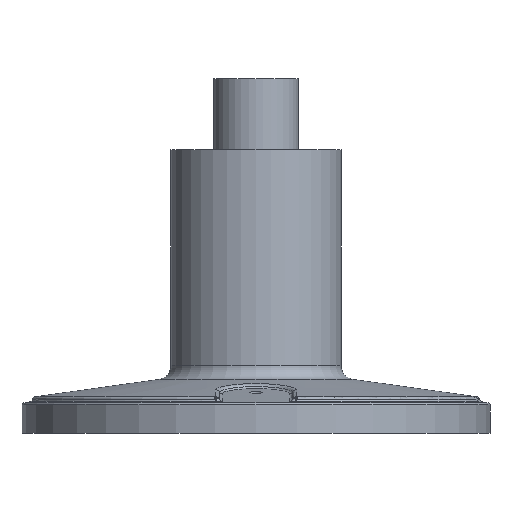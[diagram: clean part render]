
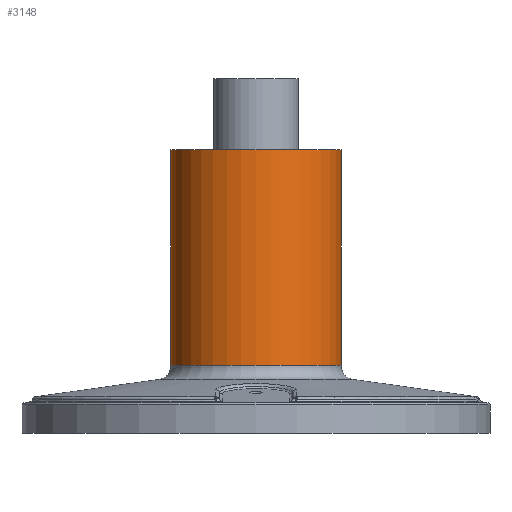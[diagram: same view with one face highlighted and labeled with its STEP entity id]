
A CAD part, front view. The second image highlights one B-rep face of the part: STEP entity #3148.
In plain terms, the highlighted cylindrical face has radius 60 mm (diameter 120 mm), a partial arc.
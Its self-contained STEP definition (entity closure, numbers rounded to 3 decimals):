
#148 = AXIS2_PLACEMENT_3D ( 'NONE', #2844, #3565, #9392 ) ;
#567 = CIRCLE ( 'NONE', #148, 60. ) ;
#673 = EDGE_CURVE ( 'NONE', #3129, #9997, #8342, .T. ) ;
#742 = CARTESIAN_POINT ( 'NONE',  ( -60., 0., 47.826 ) ) ;
#817 = CARTESIAN_POINT ( 'NONE',  ( 0., 0., 125. ) ) ;
#957 = ORIENTED_EDGE ( 'NONE', *, *, #4990, .T. ) ;
#2506 = CYLINDRICAL_SURFACE ( 'NONE', #9633, 60. ) ;
#2521 = VECTOR ( 'NONE', #8246, 1000. ) ;
#2810 = DIRECTION ( 'NONE',  ( 0., 0., -1. ) ) ;
#2844 = CARTESIAN_POINT ( 'NONE',  ( 0., 0., 47.826 ) ) ;
#2914 = EDGE_CURVE ( 'NONE', #6465, #3129, #567, .T. ) ;
#3010 = FACE_OUTER_BOUND ( 'NONE', #8997, .T. ) ;
#3107 = ORIENTED_EDGE ( 'NONE', *, *, #2914, .F. ) ;
#3129 = VERTEX_POINT ( 'NONE', #742 ) ;
#3148 = ADVANCED_FACE ( 'NONE', ( #3010 ), #2506, .T. ) ;
#3470 = VECTOR ( 'NONE', #4942, 1000. ) ;
#3565 = DIRECTION ( 'NONE',  ( 0., 0., -1. ) ) ;
#4085 = CARTESIAN_POINT ( 'NONE',  ( -60., 0., 125. ) ) ;
#4780 = VERTEX_POINT ( 'NONE', #7881 ) ;
#4942 = DIRECTION ( 'NONE',  ( 0., 0., 1. ) ) ;
#4990 = EDGE_CURVE ( 'NONE', #6465, #4780, #9282, .T. ) ;
#5228 = CARTESIAN_POINT ( 'NONE',  ( 60., 0., 47.826 ) ) ;
#5242 = DIRECTION ( 'NONE',  ( -1., 0., 0. ) ) ;
#5313 = CARTESIAN_POINT ( 'NONE',  ( 0., 0., 200. ) ) ;
#5667 = CARTESIAN_POINT ( 'NONE',  ( 60., 0., 125. ) ) ;
#6465 = VERTEX_POINT ( 'NONE', #5228 ) ;
#6554 = DIRECTION ( 'NONE',  ( 0., 0., 1. ) ) ;
#7392 = DIRECTION ( 'NONE',  ( -1., 0., 0. ) ) ;
#7732 = CIRCLE ( 'NONE', #8440, 60. ) ;
#7881 = CARTESIAN_POINT ( 'NONE',  ( 60., 0., 200. ) ) ;
#8246 = DIRECTION ( 'NONE',  ( 0., 0., 1. ) ) ;
#8342 = LINE ( 'NONE', #4085, #3470 ) ;
#8440 = AXIS2_PLACEMENT_3D ( 'NONE', #5313, #2810, #5242 ) ;
#8709 = CARTESIAN_POINT ( 'NONE',  ( -60., 0., 200. ) ) ;
#8829 = EDGE_CURVE ( 'NONE', #4780, #9997, #7732, .T. ) ;
#8997 = EDGE_LOOP ( 'NONE', ( #3107, #957, #10034, #9239 ) ) ;
#9239 = ORIENTED_EDGE ( 'NONE', *, *, #673, .F. ) ;
#9282 = LINE ( 'NONE', #5667, #2521 ) ;
#9392 = DIRECTION ( 'NONE',  ( -1., 0., 0. ) ) ;
#9633 = AXIS2_PLACEMENT_3D ( 'NONE', #817, #6554, #7392 ) ;
#9997 = VERTEX_POINT ( 'NONE', #8709 ) ;
#10034 = ORIENTED_EDGE ( 'NONE', *, *, #8829, .T. ) ;
